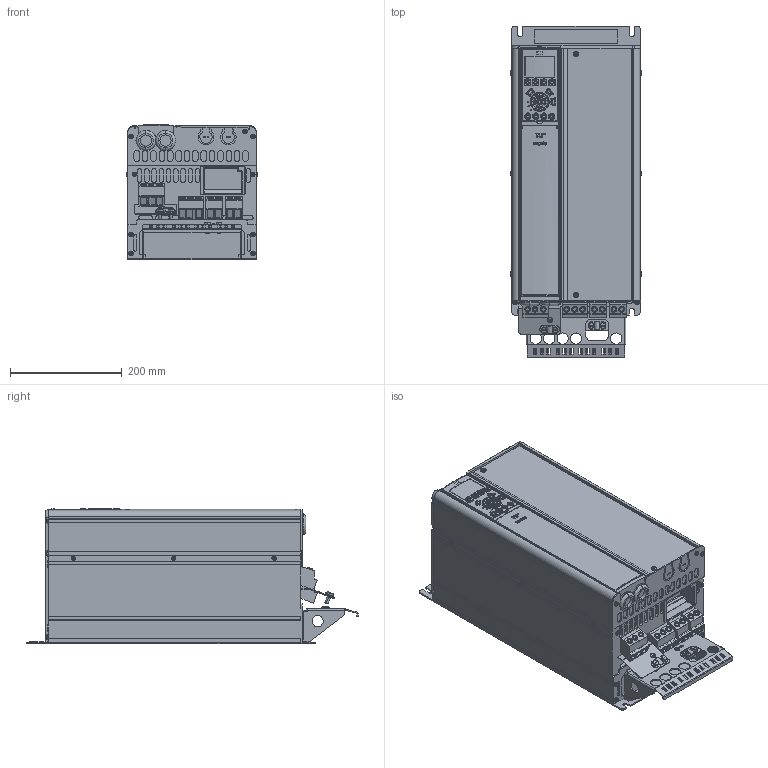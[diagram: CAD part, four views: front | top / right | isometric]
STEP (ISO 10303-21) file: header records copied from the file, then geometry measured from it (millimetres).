
FILE_DESCRIPTION((''),'2;1');
FILE_NAME('DANFOSS-FC100-B4-IP20-115','2007-07-10T',('Naushad.pm'),('dan Drives A/S'),'PRO/ENGINEER BY PARAMETRIC TECHNOLOGY CORPORATION, 2006200','PRO/ENGINEER BY PARAMETRIC TECHNOLOGY CORPORATION, 2006200','');
FILE_SCHEMA(('CONFIG_CONTROL_DESIGN', 'GEOMETRIC_VALIDATION_PROPERTIES_MIM'));
Products named in the file (1): DANFOSS-FC100-B4-IP20-115
Bounding box: 236 x 595 x 242.01 mm (x, y, z)
Volume: 21991073.3 mm3; surface area: 1395669.5 mm2
Topology: 1 solids, 31 shells, 4405 faces, 11696 edges, 7481 vertices
Faces by surface type: plane 2429, cylinder 1110, bspline 481, torus 159, extrusion 80, cone 74, sphere 72
Entity records: 182286 total; most frequent: CARTESIAN_POINT 61943, ORIENTED_EDGE 23244, DIRECTION 19137, EDGE_CURVE 11622, VERTEX_POINT 7481, VECTOR 6519, LINE 6439, AXIS2_PLACEMENT_3D 6309
